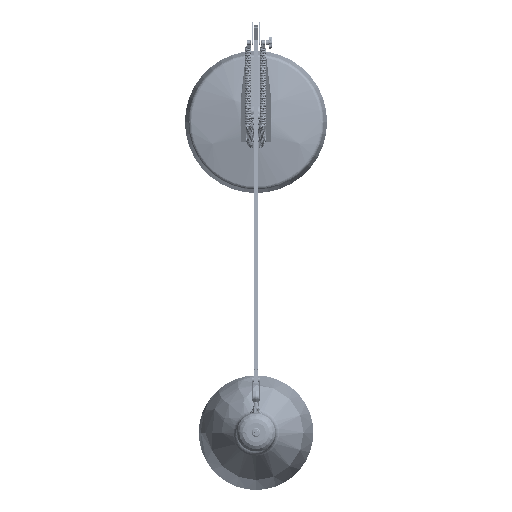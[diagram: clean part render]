
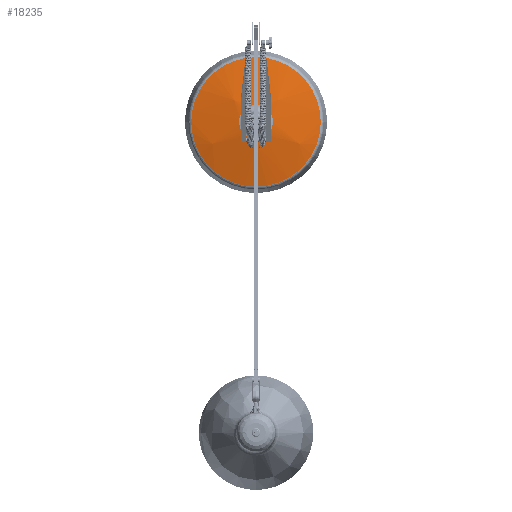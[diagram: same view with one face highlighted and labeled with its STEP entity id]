
A CAD part, top view. The second image highlights one B-rep face of the part: STEP entity #18235.
In plain terms, the highlighted spherical face has radius 440 mm.
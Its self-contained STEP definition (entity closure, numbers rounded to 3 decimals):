
#68=SPHERICAL_SURFACE('',#19301,440.);
#2923=FACE_BOUND('',#4642,.T.);
#3662=FACE_OUTER_BOUND('',#4641,.T.);
#4641=EDGE_LOOP('',(#11962,#11963));
#4642=EDGE_LOOP('',(#11964,#11965));
#5849=CIRCLE('',#19298,124.341);
#5850=CIRCLE('',#19299,124.341);
#5852=CIRCLE('',#19302,32.491);
#5853=CIRCLE('',#19303,32.491);
#7294=VERTEX_POINT('',#98911);
#7295=VERTEX_POINT('',#98912);
#7296=VERTEX_POINT('',#98917);
#7297=VERTEX_POINT('',#98918);
#9154=EDGE_CURVE('',#7294,#7295,#5849,.T.);
#9155=EDGE_CURVE('',#7295,#7294,#5850,.T.);
#9157=EDGE_CURVE('',#7296,#7297,#5852,.T.);
#9158=EDGE_CURVE('',#7297,#7296,#5853,.T.);
#11962=ORIENTED_EDGE('',*,*,#9154,.T.);
#11963=ORIENTED_EDGE('',*,*,#9155,.T.);
#11964=ORIENTED_EDGE('',*,*,#9157,.F.);
#11965=ORIENTED_EDGE('',*,*,#9158,.F.);
#18235=ADVANCED_FACE('',(#3662,#2923),#68,.T.);
#19298=AXIS2_PLACEMENT_3D('',#98913,#21314,#21315);
#19299=AXIS2_PLACEMENT_3D('',#98914,#21316,#21317);
#19301=AXIS2_PLACEMENT_3D('',#98916,#21320,#21321);
#19302=AXIS2_PLACEMENT_3D('',#98919,#21322,#21323);
#19303=AXIS2_PLACEMENT_3D('',#98920,#21324,#21325);
#21314=DIRECTION('center_axis',(0.,0.,1.));
#21315=DIRECTION('ref_axis',(-1.,0.,0.));
#21316=DIRECTION('center_axis',(0.,0.,1.));
#21317=DIRECTION('ref_axis',(-1.,0.,0.));
#21320=DIRECTION('center_axis',(0.,1.,0.));
#21321=DIRECTION('ref_axis',(-1.,0.,0.));
#21322=DIRECTION('center_axis',(0.,0.,1.));
#21323=DIRECTION('ref_axis',(-1.,0.,0.));
#21324=DIRECTION('center_axis',(0.,0.,1.));
#21325=DIRECTION('ref_axis',(-1.,0.,0.));
#98911=CARTESIAN_POINT('',(124.341,0.,29.967));
#98912=CARTESIAN_POINT('',(0.,-124.341,29.967));
#98913=CARTESIAN_POINT('Origin',(0.,0.,29.967));
#98914=CARTESIAN_POINT('Origin',(0.,0.,29.967));
#98916=CARTESIAN_POINT('Origin',(0.,0.,-392.099));
#98917=CARTESIAN_POINT('',(32.491,0.,46.7));
#98918=CARTESIAN_POINT('',(0.,-32.491,46.7));
#98919=CARTESIAN_POINT('Origin',(0.,0.,46.7));
#98920=CARTESIAN_POINT('Origin',(0.,0.,46.7));
